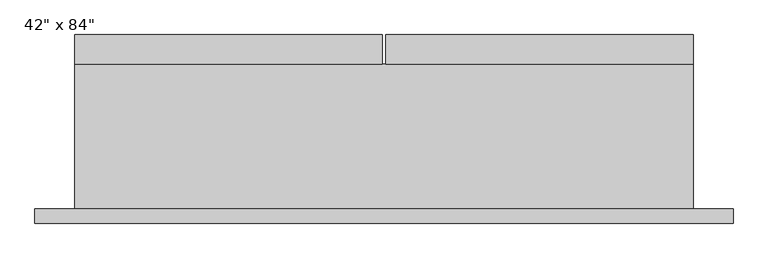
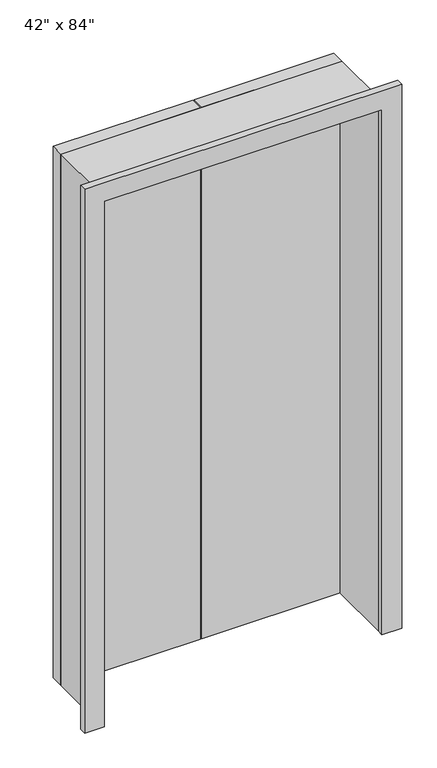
"""IFC4 building model written with IfcOpenShell, lengths in millimetres: proxy geometry."""

from ifc_helpers import new_model, si_unit, frame, origin, origin_with_axes, place, context, project, spatial, polyline, outline, extrude, source, transform, mapped, element, save


def proxy_7fed659c(model_context):
    return source(origin(), model_context, "Body", "SweptSolid", [
        extrude(outline(polyline([(-102.3106443, 127.0), (-638.8856443, 127.0), (-638.8856443, 177.8), (-102.3106443, 177.8), (-102.3106443, 127.0)])), origin_with_axes(), (0.0, 0.0, 1.0), 2159.0),
        extrude(outline(polyline([(440.6143557, 127.0), (-95.9606443, 127.0), (-95.9606443, 177.8), (440.6143557, 177.8), (440.6143557, 127.0)])), origin_with_axes(), (0.0, 0.0, 1.0), 2159.0),
        extrude(outline(polyline([(0.0, -638.8856443), (0.0, -632.5356443), (2133.6, -632.5356443), (2133.6, 434.2643557), (0.0, 434.2643557), (0.0, 440.6143557), (2159.0, 440.6143557), (2159.0, -638.8856443), (0.0, -638.8856443)])), frame((0.0, -127.0, 0.0), z_axis=(0.0, 1.0, 0.0), x_axis=(0.0, 0.0, 1.0)), (0.0, 0.0, 1.0), 254.0),
        extrude(outline(polyline([(0.0, -708.7356443), (0.0, -632.5356443), (2133.6, -632.5356443), (2133.6, 434.2643557), (0.0, 434.2643557), (0.0, 510.4643557), (2209.8, 510.4643557), (2209.8, -708.7356443), (0.0, -708.7356443)])), frame((0.0, -152.4, 0.0), z_axis=(0.0, 1.0, 0.0), x_axis=(0.0, 0.0, 1.0)), (0.0, 0.0, 1.0), 25.4),
    ])


if __name__ == "__main__":
    model = new_model("IFC4")
    model_context = context("Model", 3, world=origin())
    ifc_project = project(units=[si_unit("LENGTHUNIT", "METRE", prefix="MILLI")], contexts=[model_context])
    site = spatial("IfcSite", under=ifc_project)
    building = spatial("IfcBuilding", under=site)
    placement = place(None, origin())
    proxy_shape = proxy_7fed659c(model_context)
    element("IfcBuildingElementProxy", 1, Name="Elevator%20Door-Center[1] : 42\" x 84\"", ObjectType="Elevator%20Door-Center[1] : 42\" x 84\"", at=placement, inside=building, context=model_context, shape_type="MappedRepresentation", body=[
        mapped(proxy_shape, transform((0.0, 0.0, 0.0), x_axis=(1.0, 0.0, 0.0), y_axis=(0.0, 1.0, 0.0), z_axis=(0.0, 0.0, 1.0))),
    ])
    save(model, "model.ifc")
